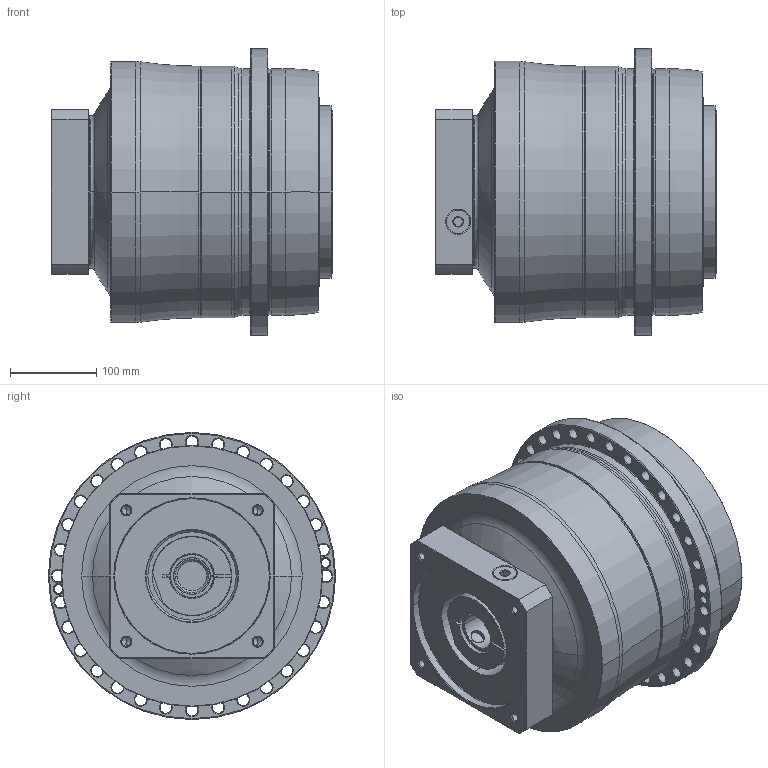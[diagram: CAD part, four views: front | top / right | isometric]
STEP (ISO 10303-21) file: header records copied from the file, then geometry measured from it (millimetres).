
FILE_DESCRIPTION((''),'2;1');
FILE_NAME('AP285_2ST_42-P0409A00201_ASM','2018-05-30T',('d01226'),(''),'PRO/ENGINEER BY PARAMETRIC TECHNOLOGY CORPORATION, 2008410','PRO/ENGINEER BY PARAMETRIC TECHNOLOGY CORPORATION, 2008410','');
FILE_SCHEMA(('CONFIG_CONTROL_DESIGN'));
Length unit declared in the file: millimetre
Products named in the file (9): P0278801003; P0359801103; P1317810201; P0503A00012; P0912702001; P1211800001; P0409A00201; 21711422019; AP285_2ST_42-P0409A00201_ASM
Assembly tree (8 placements, depth 2):
  AP285_2ST_42-P0409A00201_ASM
    P0278801003
    P0359801103
    P1317810201
    P0503A00012
    P0912702001
    P1211800001
    P0409A00201
    21711422019
Bounding box: 325.5 x 332 x 332 mm (x, y, z)
Volume: 16843538.7 mm3; surface area: 1009492.3 mm2
Topology: 9 solids, 32 shells, 683 faces, 1577 edges, 958 vertices
Faces by surface type: cylinder 272, cone 220, plane 101, torus 74, bspline 16
Entity records: 24327 total; most frequent: CARTESIAN_POINT 7960, DIRECTION 3775, ORIENTED_EDGE 3044, AXIS2_PLACEMENT_3D 1609, EDGE_CURVE 1569, VERTEX_POINT 958, CIRCLE 913, EDGE_LOOP 845
